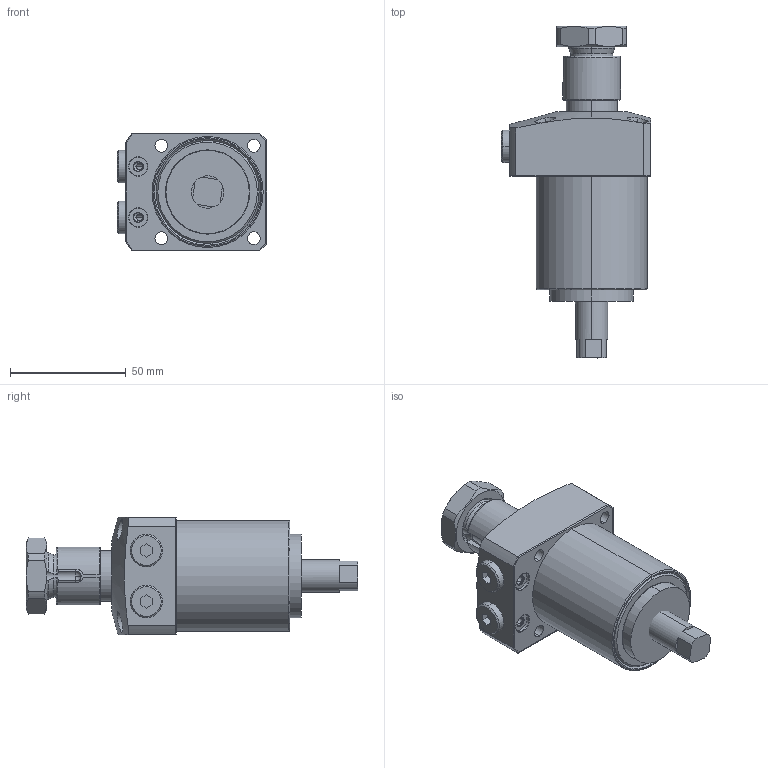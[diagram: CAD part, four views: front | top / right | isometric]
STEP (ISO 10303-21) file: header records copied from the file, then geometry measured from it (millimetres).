
FILE_DESCRIPTION (( 'STEP AP203' ), '1' );
FILE_NAME ('20360-CR-D.STEP', '2019-06-24T03:00:13', ( '微软用户' ), ( '微软中国' ), 'SwSTEP 2.0', 'SolidWorks 2014', '' );
FILE_SCHEMA (( 'CONFIG_CONTROL_DESIGN' ));
Length unit declared in the file: millimetre
Products named in the file (7): 20360-1^20360-CR-D; 20360-2^20360-CR-D; 20360-3^20360-CR-D; 20360-4^20360-CR-D; 20360-5^20360-CR-D; 20360-C-P-4^20360-CR-D; 20360-CR-D
Assembly tree (7 placements, depth 2):
  20360-CR-D
    20360-1^20360-CR-D
    20360-2^20360-CR-D
    20360-3^20360-CR-D
    20360-4^20360-CR-D
    20360-5^20360-CR-D
    20360-C-P-4^20360-CR-D  x2
Bounding box: 64.5 x 143.5 x 51 mm (x, y, z)
Volume: 206635.7 mm3; surface area: 39191.5 mm2
Topology: 7 solids, 7 shells, 239 faces, 567 edges, 359 vertices
Faces by surface type: plane 87, cylinder 79, cone 53, torus 18, sphere 2
Entity records: 8098 total; most frequent: CARTESIAN_POINT 2046, DIRECTION 1153, ORIENTED_EDGE 1074, EDGE_CURVE 537, AXIS2_PLACEMENT_3D 468, VERTEX_POINT 341, EDGE_LOOP 258, CIRCLE 232
